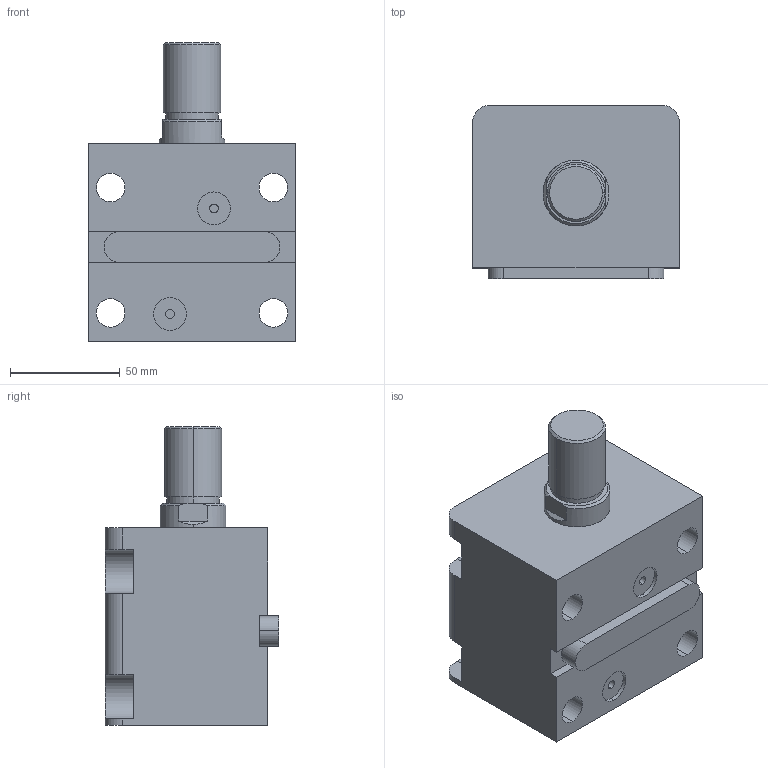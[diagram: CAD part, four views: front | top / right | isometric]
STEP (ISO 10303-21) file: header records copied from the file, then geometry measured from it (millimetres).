
FILE_DESCRIPTION (( 'STEP AP203' ), '1' );
FILE_NAME ('HTB-LAM50-30W.STEP', '2023-03-20T00:48:44', ( '微软用户' ), ( '微软中国' ), 'SwSTEP 2.0', 'SolidWorks 2012', '' );
FILE_SCHEMA (( 'CONFIG_CONTROL_DESIGN' ));
Length unit declared in the file: millimetre
Products named in the file (4): HTB-LAM50-30W; HTB-LWM50-瑩; HTB-LAM50-30W活塞杆; HTB-LAM50-30掛极
Assembly tree (3 placements, depth 2):
  HTB-LAM50-30W
    HTB-LAM50-30掛极
    HTB-LAM50-30W活塞杆
    HTB-LWM50-瑩
Bounding box: 94 x 79 x 136 mm (x, y, z)
Volume: 565163.8 mm3; surface area: 88781.6 mm2
Topology: 3 solids, 3 shells, 90 faces, 219 edges, 144 vertices
Faces by surface type: cylinder 41, plane 41, cone 4, torus 4
Entity records: 3107 total; most frequent: DIRECTION 497, CARTESIAN_POINT 487, ORIENTED_EDGE 438, EDGE_CURVE 219, AXIS2_PLACEMENT_3D 190, VERTEX_POINT 144, VECTOR 117, LINE 117
